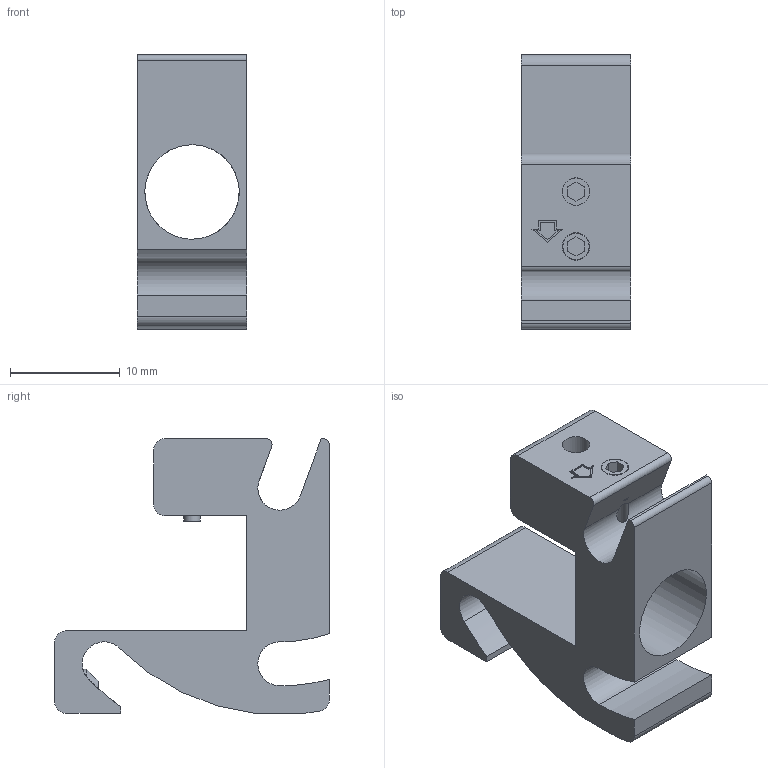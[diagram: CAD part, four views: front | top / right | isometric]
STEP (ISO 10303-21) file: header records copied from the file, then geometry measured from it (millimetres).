
FILE_DESCRIPTION(/* description */ (''),/* implementation_level */ '2;1');
FILE_NAME(/* name */ 'Y:\2_OpticalHard\08_Cage Systems\C16ｼﾘｰｽﾞ\C16-PLH-10\C16-PLH-10.stp',/* time_stamp */ '2017-05-08T15:50:16+09:00',/* author */ ('e.nonaka'),/* organization */ (''),/* preprocessor_version */ 'ST-DEVELOPER v16.1',/* originating_system */ 'Autodesk Inventor 2016',/* authorisation */ '');
FILE_SCHEMA (('AUTOMOTIVE_DESIGN { 1 0 10303 214 3 1 1 }'));
Length unit declared in the file: millimetre
Products named in the file (1): C16PLH10-M02-17001-TS01
Bounding box: 10 x 25 x 25 mm (x, y, z)
Volume: 2393.8 mm3; surface area: 2242.4 mm2
Topology: 1 solids, 1 shells, 90 faces, 240 edges, 161 vertices
Faces by surface type: plane 60, cylinder 25, cone 5
Full cylindrical faces by diameter (mm): 1.5 x1, 2.5 x5, 8.6 x1
Entity records: 2894 total; most frequent: CARTESIAN_POINT 575, DIRECTION 446, ORIENTED_EDGE 440, EDGE_CURVE 220, LINE 158, VECTOR 158, VERTEX_POINT 152, AXIS2_PLACEMENT_3D 144
